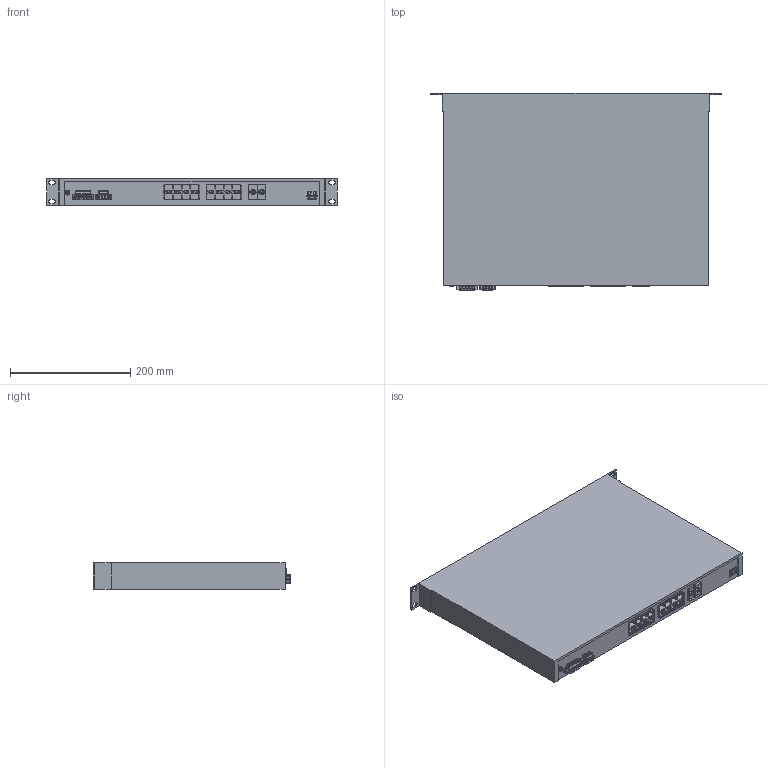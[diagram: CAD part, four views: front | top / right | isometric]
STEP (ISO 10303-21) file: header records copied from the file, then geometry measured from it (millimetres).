
FILE_DESCRIPTION(('TFLEX Exchange Step'),'2;1');
FILE_NAME('70000001_STEZ4800-16SFP-4G.stp', '2025-08-28T09:08:26+03:00',('YLedovskikh'),('Unknown organisation'),'TFLEX Exchange 2023.2','T-FLEX CAD','Unknown authorisation');
FILE_SCHEMA( ('AUTOMOTIVE_DESIGN { 1 0 10303 214 1 1 1 1 }') );
Length unit declared in the file: millimetre
Products named in the file (1): Тело_4 :1
Bounding box: 482.6 x 328.5 x 44 mm (x, y, z)
Volume: 5982854.3 mm3; surface area: 446439.7 mm2
Topology: 1 solids, 27 shells, 3681 faces, 10013 edges, 6644 vertices
Faces by surface type: plane 2404, cylinder 958, bspline 159, sphere 132, extrusion 16, cone 8, torus 4
Full cylindrical faces by diameter (mm): 1 x8, 1.5 x8, 1.53 x8, 1.6 x2, 1.8 x4, 2.5 x4, 2.6 x4, 3 x76, 3.1 x60, 3.2 x1, 3.25 x2, 3.8 x4, 3.821 x8, 3.9 x4, 4 x10, 4.4 x1, 5.2 x3, 6.8 x1
Entity records: 119537 total; most frequent: CARTESIAN_POINT 23682, ORIENTED_EDGE 19786, DIRECTION 18841, EDGE_CURVE 9893, VECTOR 6915, LINE 6899, VERTEX_POINT 6644, AXIS2_PLACEMENT_3D 5963
